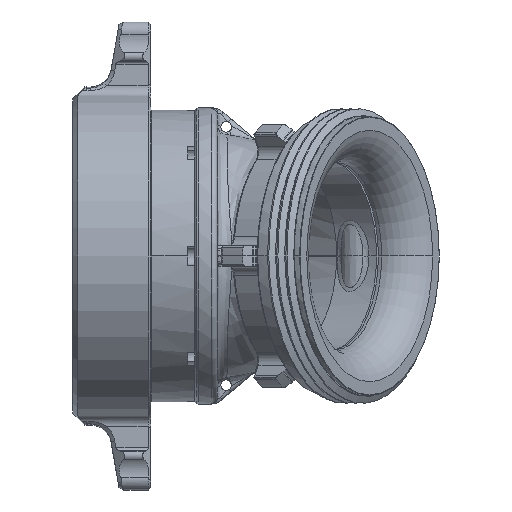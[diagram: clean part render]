
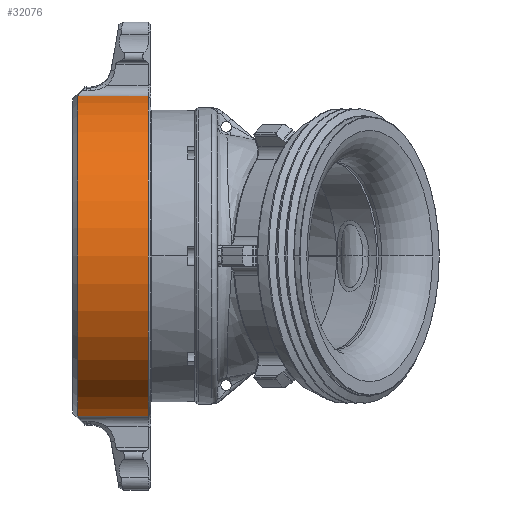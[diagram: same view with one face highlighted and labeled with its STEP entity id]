
A CAD part, front view. The second image highlights one B-rep face of the part: STEP entity #32076.
In plain terms, the highlighted cylindrical face has radius 98.425 mm (diameter 196.85 mm), a partial arc.
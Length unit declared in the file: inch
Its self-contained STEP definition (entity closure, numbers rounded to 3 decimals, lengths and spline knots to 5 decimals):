
#137 = VERTEX_POINT ( 'NONE', #18566 ) ;
#1723 = VERTEX_POINT ( 'NONE', #3965 ) ;
#3004 = CYLINDRICAL_SURFACE ( 'NONE', #3032, 3.875 ) ;
#3032 = AXIS2_PLACEMENT_3D ( 'NONE', #28402, #31298, #17284 ) ;
#3365 = CARTESIAN_POINT ( 'NONE',  ( 0.5175, -0.68106, 3.81468 ) ) ;
#3434 = ORIENTED_EDGE ( 'NONE', *, *, #9129, .F. ) ;
#3965 = CARTESIAN_POINT ( 'NONE',  ( -1.158, -0.68106, -3.81468 ) ) ;
#5291 = DIRECTION ( 'NONE',  ( 0., 0., 1. ) ) ;
#5329 = DIRECTION ( 'NONE',  ( 0., 0., -1. ) ) ;
#8433 = EDGE_CURVE ( 'NONE', #11684, #22587, #9208, .T. ) ;
#9129 = EDGE_CURVE ( 'NONE', #1723, #137, #15396, .T. ) ;
#9208 = CIRCLE ( 'NONE', #36671, 3.875 ) ;
#11165 = ORIENTED_EDGE ( 'NONE', *, *, #31593, .F. ) ;
#11684 = VERTEX_POINT ( 'NONE', #25967 ) ;
#12734 = ORIENTED_EDGE ( 'NONE', *, *, #31168, .T. ) ;
#13597 = FACE_OUTER_BOUND ( 'NONE', #31074, .T. ) ;
#15396 = CIRCLE ( 'NONE', #17750, 3.875 ) ;
#16335 = DIRECTION ( 'NONE',  ( -1., 0., 0. ) ) ;
#16663 = CARTESIAN_POINT ( 'NONE',  ( 0.5175, 0., 0. ) ) ;
#17111 = LINE ( 'NONE', #34417, #25964 ) ;
#17284 = DIRECTION ( 'NONE',  ( 0., 0., -1. ) ) ;
#17750 = AXIS2_PLACEMENT_3D ( 'NONE', #33261, #16335, #5329 ) ;
#18566 = CARTESIAN_POINT ( 'NONE',  ( -1.158, -0.68106, 3.81468 ) ) ;
#20493 = DIRECTION ( 'NONE',  ( 1., 0., 0. ) ) ;
#22074 = DIRECTION ( 'NONE',  ( -1., 0., 0. ) ) ;
#22587 = VERTEX_POINT ( 'NONE', #3365 ) ;
#22890 = DIRECTION ( 'NONE',  ( 1., 0., 0. ) ) ;
#23336 = CARTESIAN_POINT ( 'NONE',  ( -1.333, -0.68106, -3.81468 ) ) ;
#23762 = LINE ( 'NONE', #23336, #25080 ) ;
#25080 = VECTOR ( 'NONE', #20493, 39.37008 ) ;
#25964 = VECTOR ( 'NONE', #22890, 39.37008 ) ;
#25967 = CARTESIAN_POINT ( 'NONE',  ( 0.5175, -0.68106, -3.81468 ) ) ;
#26285 = ORIENTED_EDGE ( 'NONE', *, *, #8433, .T. ) ;
#28402 = CARTESIAN_POINT ( 'NONE',  ( -1.333, 0., 0. ) ) ;
#31074 = EDGE_LOOP ( 'NONE', ( #12734, #26285, #11165, #3434 ) ) ;
#31168 = EDGE_CURVE ( 'NONE', #1723, #11684, #23762, .T. ) ;
#31298 = DIRECTION ( 'NONE',  ( 1., 0., 0. ) ) ;
#31593 = EDGE_CURVE ( 'NONE', #137, #22587, #17111, .T. ) ;
#32076 = ADVANCED_FACE ( 'NONE', ( #13597 ), #3004, .T. ) ;
#33261 = CARTESIAN_POINT ( 'NONE',  ( -1.158, 0., 0. ) ) ;
#34417 = CARTESIAN_POINT ( 'NONE',  ( -1.333, -0.68106, 3.81468 ) ) ;
#36671 = AXIS2_PLACEMENT_3D ( 'NONE', #16663, #22074, #5291 ) ;
